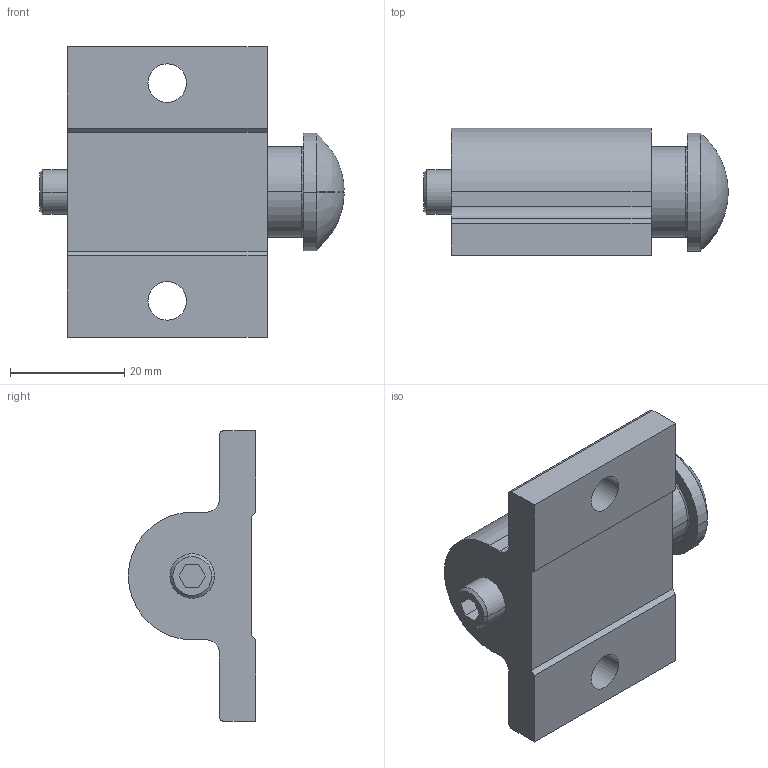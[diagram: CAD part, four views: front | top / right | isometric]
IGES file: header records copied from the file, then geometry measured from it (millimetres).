
Start section:  PTC IGES file: ss92-3d.igs
Global section: file name: ss92-3d.igs; native system: Pro/ENGINEER by Parametric Technology Corporation; preprocessor: 2002350; author: chant; organization: Unknown; date: 061026.144517; units: inch
Bounding box: 53.24 x 22.28 x 50.8 mm (x, y, z)
Surface area: 9151 mm2 (no closed solid volume)
Topology: 0 solids, 0 shells, 54 faces, 367 edges, 455 vertices
Faces by surface type: revolution 29, bspline 25
